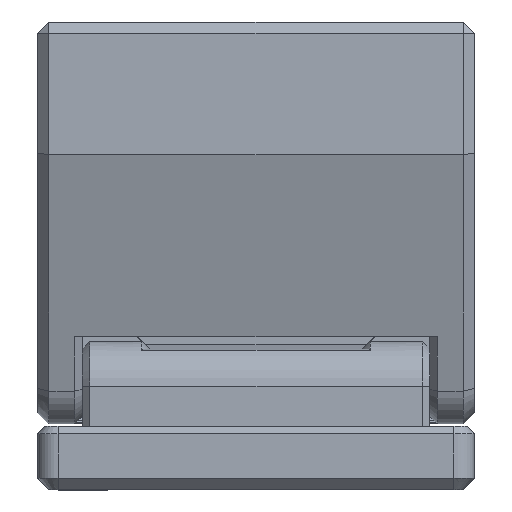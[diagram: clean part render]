
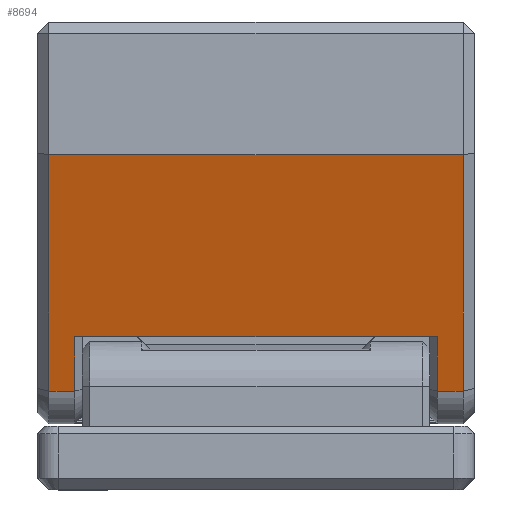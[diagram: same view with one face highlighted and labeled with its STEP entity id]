
A CAD part, top view. The second image highlights one B-rep face of the part: STEP entity #8694.
In plain terms, the highlighted planar face has unit normal (0, -0.27, 0.963).
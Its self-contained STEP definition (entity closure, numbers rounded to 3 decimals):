
#408=PLANE('',#9413);
#756=FACE_OUTER_BOUND('',#1317,.T.);
#1317=EDGE_LOOP('',(#6760,#6761,#6762,#6763,#6764,#6765,#6766,#6767));
#2011=LINE('',#13555,#2890);
#2026=LINE('',#13595,#2905);
#2040=LINE('',#13628,#2919);
#2041=LINE('',#13632,#2920);
#2042=LINE('',#13634,#2921);
#2043=LINE('',#13636,#2922);
#2044=LINE('',#13637,#2923);
#2045=LINE('',#13638,#2924);
#2890=VECTOR('',#10875,10.);
#2905=VECTOR('',#10906,10.);
#2919=VECTOR('',#10934,10.);
#2920=VECTOR('',#10939,10.);
#2921=VECTOR('',#10940,10.);
#2922=VECTOR('',#10941,10.);
#2923=VECTOR('',#10942,10.);
#2924=VECTOR('',#10943,10.);
#4132=VERTEX_POINT('',#13548);
#4135=VERTEX_POINT('',#13553);
#4151=VERTEX_POINT('',#13592);
#4152=VERTEX_POINT('',#13594);
#4164=VERTEX_POINT('',#13627);
#4165=VERTEX_POINT('',#13631);
#4166=VERTEX_POINT('',#13633);
#4167=VERTEX_POINT('',#13635);
#5054=EDGE_CURVE('',#4135,#4132,#2011,.T.);
#5073=EDGE_CURVE('',#4151,#4152,#2026,.T.);
#5090=EDGE_CURVE('',#4164,#4152,#2040,.T.);
#5092=EDGE_CURVE('',#4165,#4135,#2041,.T.);
#5093=EDGE_CURVE('',#4166,#4165,#2042,.T.);
#5094=EDGE_CURVE('',#4166,#4167,#2043,.T.);
#5095=EDGE_CURVE('',#4164,#4167,#2044,.T.);
#5096=EDGE_CURVE('',#4132,#4151,#2045,.T.);
#6760=ORIENTED_EDGE('',*,*,#5054,.F.);
#6761=ORIENTED_EDGE('',*,*,#5092,.F.);
#6762=ORIENTED_EDGE('',*,*,#5093,.F.);
#6763=ORIENTED_EDGE('',*,*,#5094,.T.);
#6764=ORIENTED_EDGE('',*,*,#5095,.F.);
#6765=ORIENTED_EDGE('',*,*,#5090,.T.);
#6766=ORIENTED_EDGE('',*,*,#5073,.F.);
#6767=ORIENTED_EDGE('',*,*,#5096,.F.);
#8694=ADVANCED_FACE('',(#756),#408,.F.);
#9413=AXIS2_PLACEMENT_3D('',#13630,#10937,#10938);
#10875=DIRECTION('',(0.,0.963,0.27));
#10906=DIRECTION('',(0.,-0.963,-0.27));
#10934=DIRECTION('',(1.,0.,0.));
#10937=DIRECTION('center_axis',(0.,0.27,-0.963));
#10938=DIRECTION('ref_axis',(0.,-0.963,-0.27));
#10939=DIRECTION('',(-1.,0.,0.));
#10940=DIRECTION('',(0.,-0.963,-0.27));
#10941=DIRECTION('',(-1.,0.,0.));
#10942=DIRECTION('',(0.,0.963,0.27));
#10943=DIRECTION('',(-1.,0.,0.));
#13548=CARTESIAN_POINT('',(89.7,-16.861,20.289));
#13553=CARTESIAN_POINT('',(89.7,-31.438,16.205));
#13555=CARTESIAN_POINT('',(89.7,10.655,27.999));
#13592=CARTESIAN_POINT('',(-7.7,-16.861,20.289));
#13594=CARTESIAN_POINT('',(-7.7,-31.438,16.205));
#13595=CARTESIAN_POINT('',(-7.7,20.893,30.867));
#13627=CARTESIAN_POINT('',(-14.675,-31.438,16.205));
#13628=CARTESIAN_POINT('',(-17.675,-31.438,16.205));
#13630=CARTESIAN_POINT('Origin',(99.675,32.073,34.));
#13631=CARTESIAN_POINT('',(96.675,-31.438,16.205));
#13632=CARTESIAN_POINT('',(99.675,-31.438,16.205));
#13633=CARTESIAN_POINT('',(96.675,32.073,34.));
#13634=CARTESIAN_POINT('',(96.675,9.496,27.674));
#13635=CARTESIAN_POINT('',(-14.675,32.073,34.));
#13636=CARTESIAN_POINT('',(70.338,32.073,34.));
#13637=CARTESIAN_POINT('',(-14.675,43.524,37.208));
#13638=CARTESIAN_POINT('',(99.675,-16.861,20.289));
